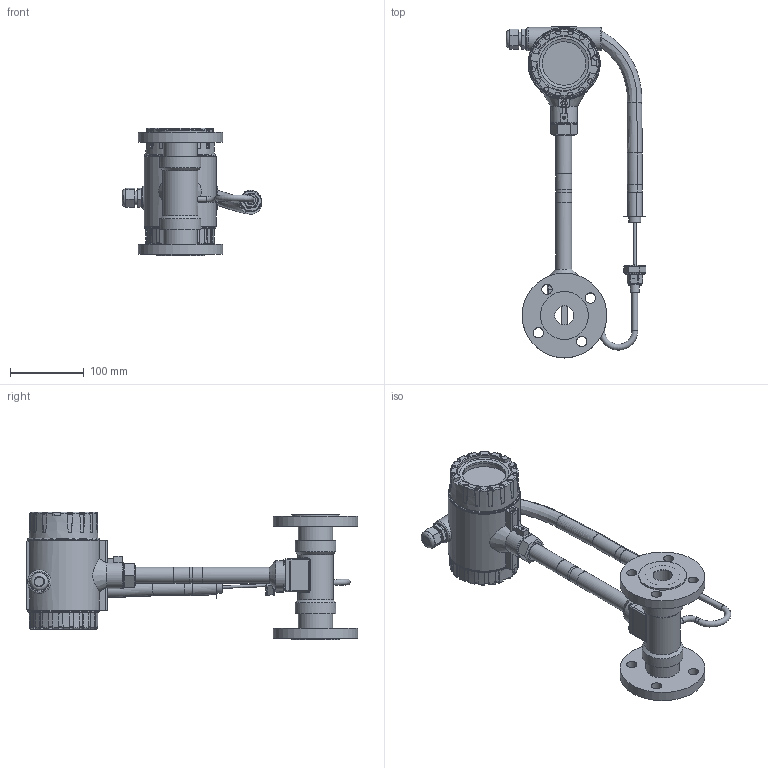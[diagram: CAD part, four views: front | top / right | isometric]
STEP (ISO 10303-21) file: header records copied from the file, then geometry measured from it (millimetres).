
FILE_DESCRIPTION(/* description */ ('STEP AP214'),/* implementation_level */ '2;1');
FILE_NAME(/* name */ 'DN25 vortex.step',/* time_stamp */ '2025-09-25T17:45:58+03:00',/* author */ (''),/* organization */ (''),/* preprocessor_version */ 'ST-DEVELOPER v20.1',/* originating_system */ 'Autodesk Translation Framework v14.10.0.0',/* authorisation */ '');
FILE_SCHEMA (('AUTOMOTIVE_DESIGN { 1 0 10303 214 3 1 1 }'));
Length unit declared in the file: millimetre
Products named in the file (1): DN100法兰连接装配体
Bounding box: 189.8 x 450.25 x 173.33 mm (x, y, z)
Volume: 1141356.8 mm3; surface area: 357469.5 mm2
Topology: 22 solids, 23 shells, 909 faces, 2255 edges, 1430 vertices
Faces by surface type: plane 512, cylinder 248, torus 59, cone 45, bspline 41, sphere 4
Full cylindrical faces by diameter (mm): 2.88 x1, 3.3 x1, 3.65 x2, 3.78 x8, 4.2 x2, 5.4 x8, 6 x4, 8 x4, 8.1 x1, 8.7 x2, 10 x1, 12 x1, 12.4 x1, 13 x1, 14 x9, 16 x2, 16.2 x2, 17.727 x4, 18 x4, 19 x7, 19.2 x2, 20.6 x1, 20.655 x1, 21.6 x2, 22.6 x1, 24.2 x1, 26 x3, 28 x2, 31.9 x2, 34.2 x1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
Entity records: 31583 total; most frequent: CARTESIAN_POINT 9605, DIRECTION 4723, ORIENTED_EDGE 4496, EDGE_CURVE 2248, AXIS2_PLACEMENT_3D 1795, VERTEX_POINT 1430, LINE 1133, VECTOR 1133
